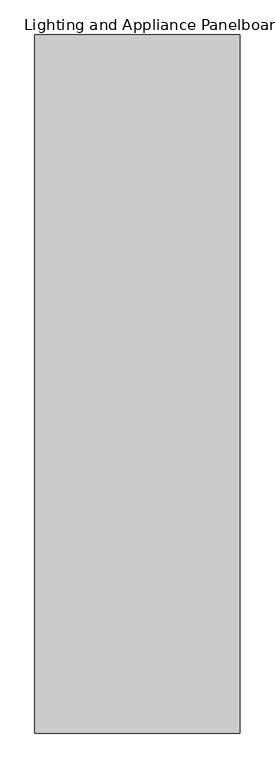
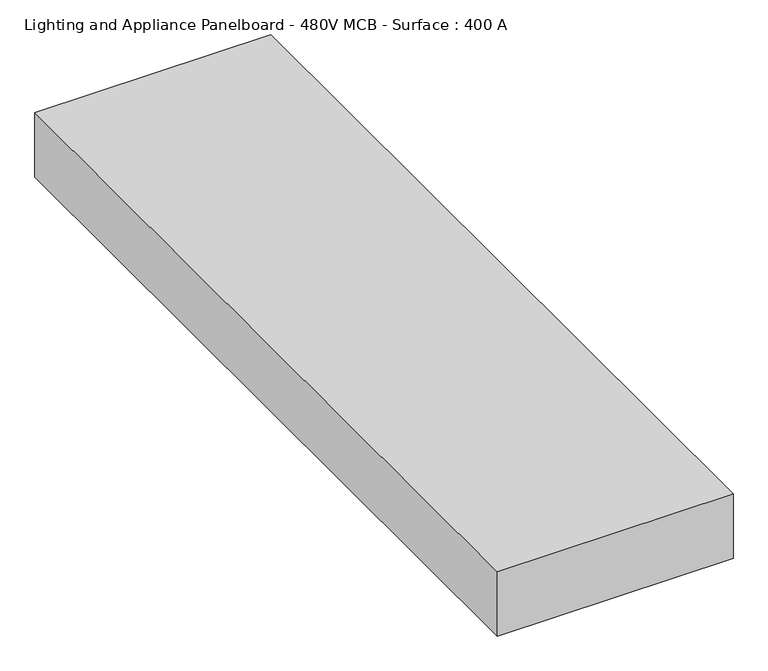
"""IFC4 building model written with IfcOpenShell, lengths in millimetres: proxy geometry, Lighting and Appliance Panelboard - 480V MCB - Surface : 400 A."""

from ifc_helpers import new_model, si_unit, origin, origin_with_axes, place, context, project, spatial, polyline, outline, extrude, source, transform, mapped, element, save


def lighting_and_appliance_panelboard_480v_mcb_surface_400_a_65176da0(model_context):
    return source(origin(), model_context, "Body", "SweptSolid", [
        extrude(outline(polyline([(355.6, 381.0), (355.6, -1346.2), (-152.4, -1346.2), (-152.4, 381.0), (355.6, 381.0)])), origin_with_axes(), (0.0, 0.0, 1.0), 146.05),
    ])


if __name__ == "__main__":
    model = new_model("IFC4")
    model_context = context("Model", 3, world=origin())
    ifc_project = project(units=[si_unit("LENGTHUNIT", "METRE", prefix="MILLI")], contexts=[model_context])
    site = spatial("IfcSite", under=ifc_project)
    building = spatial("IfcBuilding", under=site)
    placement = place(None, origin())
    lighting_and_appliance_panelboard_480v_mcb_surface_400_a_shape = lighting_and_appliance_panelboard_480v_mcb_surface_400_a_65176da0(model_context)
    element("IfcBuildingElementProxy", 1, Name="Lighting and Appliance Panelboard - 480V MCB - Surface : 400 A", ObjectType="Lighting and Appliance Panelboard - 480V MCB - Surface : 400 A", at=placement, inside=building, context=model_context, shape_type="MappedRepresentation", body=[
        mapped(lighting_and_appliance_panelboard_480v_mcb_surface_400_a_shape, transform((0.0, 0.0, 0.0), x_axis=(1.0, 0.0, 0.0), y_axis=(0.0, 1.0, 0.0), z_axis=(0.0, 0.0, 1.0))),
    ])
    save(model, "model.ifc")
